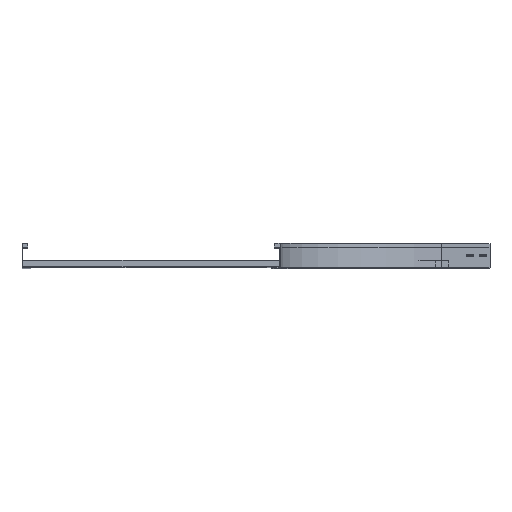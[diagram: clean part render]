
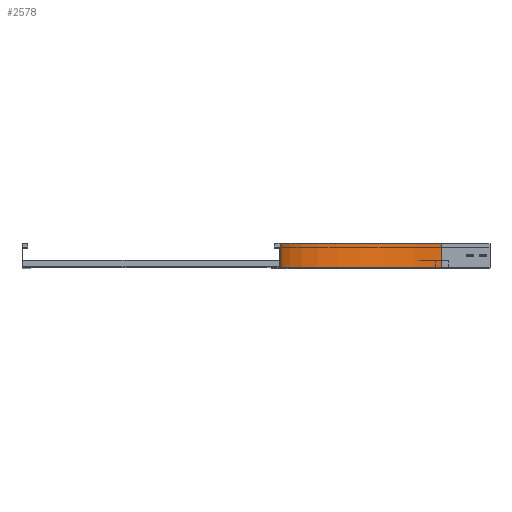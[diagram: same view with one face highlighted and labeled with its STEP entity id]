
A CAD part, top view. The second image highlights one B-rep face of the part: STEP entity #2578.
In plain terms, the highlighted cylindrical face has radius 500 mm (diameter 1000 mm), a partial arc.
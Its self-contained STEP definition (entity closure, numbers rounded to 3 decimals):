
#27 = CIRCLE ( 'NONE', #3415, 500. ) ;
#110 = VERTEX_POINT ( 'NONE', #1928 ) ;
#237 = VERTEX_POINT ( 'NONE', #3055 ) ;
#750 = CARTESIAN_POINT ( 'NONE',  ( 500., 75., -650. ) ) ;
#917 = CARTESIAN_POINT ( 'NONE',  ( 0., 0., -150. ) ) ;
#926 = CIRCLE ( 'NONE', #1336, 500. ) ;
#1029 = CARTESIAN_POINT ( 'NONE',  ( 500., 0., -150. ) ) ;
#1037 = EDGE_CURVE ( 'NONE', #237, #1676, #3890, .T. ) ;
#1223 = DIRECTION ( 'NONE',  ( 0., -1., 0. ) ) ;
#1336 = AXIS2_PLACEMENT_3D ( 'NONE', #1029, #2353, #3677 ) ;
#1344 = ORIENTED_EDGE ( 'NONE', *, *, #1933, .T. ) ;
#1379 = EDGE_LOOP ( 'NONE', ( #1610, #3654, #1344, #1801 ) ) ;
#1473 = DIRECTION ( 'NONE',  ( 0., -1., 0. ) ) ;
#1551 = CARTESIAN_POINT ( 'NONE',  ( 500., 0., -150. ) ) ;
#1609 = VERTEX_POINT ( 'NONE', #750 ) ;
#1610 = ORIENTED_EDGE ( 'NONE', *, *, #2013, .F. ) ;
#1633 = VECTOR ( 'NONE', #2403, 1000. ) ;
#1676 = VERTEX_POINT ( 'NONE', #2350 ) ;
#1801 = ORIENTED_EDGE ( 'NONE', *, *, #4117, .T. ) ;
#1887 = VECTOR ( 'NONE', #2158, 1000. ) ;
#1928 = CARTESIAN_POINT ( 'NONE',  ( 500., 0., -650. ) ) ;
#1933 = EDGE_CURVE ( 'NONE', #237, #110, #926, .T. ) ;
#2013 = EDGE_CURVE ( 'NONE', #1676, #1609, #27, .T. ) ;
#2158 = DIRECTION ( 'NONE',  ( 0., 1., 0. ) ) ;
#2186 = FACE_OUTER_BOUND ( 'NONE', #1379, .T. ) ;
#2350 = CARTESIAN_POINT ( 'NONE',  ( 0., 75., -150. ) ) ;
#2353 = DIRECTION ( 'NONE',  ( 0., -1., 0. ) ) ;
#2403 = DIRECTION ( 'NONE',  ( 0., 1., 0. ) ) ;
#2578 = ADVANCED_FACE ( 'NONE', ( #2186 ), #3838, .F. ) ;
#2784 = DIRECTION ( 'NONE',  ( -1., 0., 0. ) ) ;
#3055 = CARTESIAN_POINT ( 'NONE',  ( 0., 0., -150. ) ) ;
#3397 = CARTESIAN_POINT ( 'NONE',  ( 500., 0., -650. ) ) ;
#3415 = AXIS2_PLACEMENT_3D ( 'NONE', #4085, #1473, #2784 ) ;
#3516 = DIRECTION ( 'NONE',  ( 0., 0., -1. ) ) ;
#3654 = ORIENTED_EDGE ( 'NONE', *, *, #1037, .F. ) ;
#3677 = DIRECTION ( 'NONE',  ( -1., 0., 0. ) ) ;
#3729 = LINE ( 'NONE', #3397, #1887 ) ;
#3838 = CYLINDRICAL_SURFACE ( 'NONE', #4116, 500. ) ;
#3890 = LINE ( 'NONE', #917, #1633 ) ;
#4085 = CARTESIAN_POINT ( 'NONE',  ( 500., 75., -150. ) ) ;
#4116 = AXIS2_PLACEMENT_3D ( 'NONE', #1551, #1223, #3516 ) ;
#4117 = EDGE_CURVE ( 'NONE', #110, #1609, #3729, .T. ) ;
